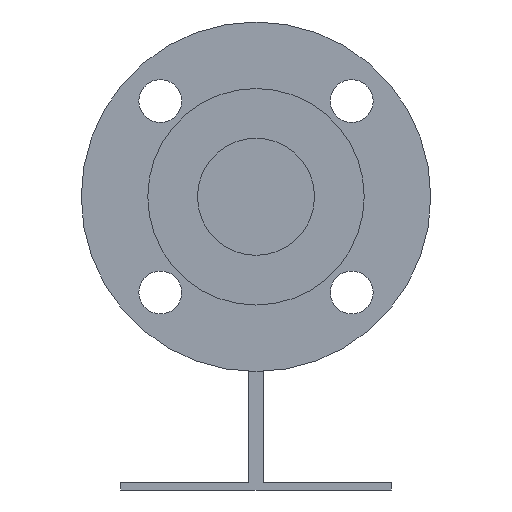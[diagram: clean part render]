
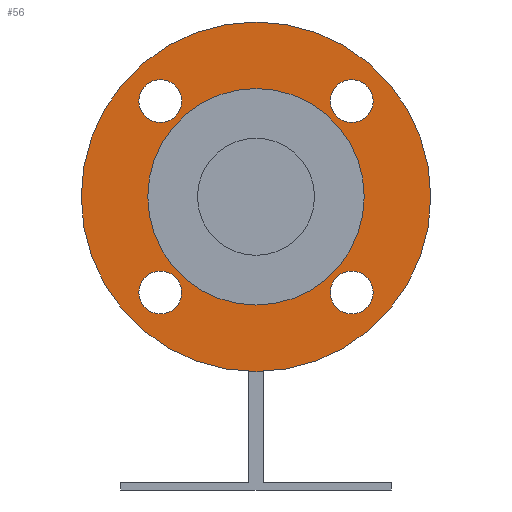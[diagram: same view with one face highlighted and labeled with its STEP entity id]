
A CAD part, left-side view. The second image highlights one B-rep face of the part: STEP entity #56.
In plain terms, the highlighted planar face has unit normal (-1, 0, 0).
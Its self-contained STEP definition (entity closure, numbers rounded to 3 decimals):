
#56=ADVANCED_FACE('',(#285,#286,#287,#288,#289,#290),#284,.T.);
#284=PLANE('',#1012);
#285=FACE_OUTER_BOUND('',#1013,.T.);
#286=FACE_BOUND('',#1014,.T.);
#287=FACE_BOUND('',#1015,.T.);
#288=FACE_BOUND('',#1016,.T.);
#289=FACE_BOUND('',#1017,.T.);
#290=FACE_BOUND('',#1018,.T.);
#1009=CARTESIAN_POINT('',(-339.,-144.234,-165.));
#1010=DIRECTION('',(-1.,0.,0.));
#1011=DIRECTION('',(0.,0.,1.));
#1012=AXIS2_PLACEMENT_3D('',#1009,#1010,#1011);
#1013=EDGE_LOOP('',(#1422,#1423));
#1014=EDGE_LOOP('',(#1424,#1425));
#1015=EDGE_LOOP('',(#1426,#1427));
#1016=EDGE_LOOP('',(#1428,#1429));
#1017=EDGE_LOOP('',(#1430,#1431));
#1018=EDGE_LOOP('',(#1432,#1433));
#1422=ORIENTED_EDGE('',*,*,#1791,.T.);
#1423=ORIENTED_EDGE('',*,*,#1792,.T.);
#1424=ORIENTED_EDGE('',*,*,#1793,.F.);
#1425=ORIENTED_EDGE('',*,*,#1794,.F.);
#1426=ORIENTED_EDGE('',*,*,#1795,.F.);
#1427=ORIENTED_EDGE('',*,*,#1796,.F.);
#1428=ORIENTED_EDGE('',*,*,#1797,.F.);
#1429=ORIENTED_EDGE('',*,*,#1798,.F.);
#1430=ORIENTED_EDGE('',*,*,#1799,.F.);
#1431=ORIENTED_EDGE('',*,*,#1800,.F.);
#1432=ORIENTED_EDGE('',*,*,#1801,.F.);
#1433=ORIENTED_EDGE('',*,*,#1802,.F.);
#1791=EDGE_CURVE('',#2340,#2341,#2342,.T.);
#1792=EDGE_CURVE('',#2341,#2340,#2348,.T.);
#1793=EDGE_CURVE('',#2354,#2355,#2356,.T.);
#1794=EDGE_CURVE('',#2355,#2354,#2362,.T.);
#1795=EDGE_CURVE('',#2368,#2369,#2370,.T.);
#1796=EDGE_CURVE('',#2369,#2368,#2376,.T.);
#1797=EDGE_CURVE('',#2382,#2383,#2384,.T.);
#1798=EDGE_CURVE('',#2383,#2382,#2390,.T.);
#1799=EDGE_CURVE('',#2396,#2397,#2398,.T.);
#1800=EDGE_CURVE('',#2397,#2396,#2404,.T.);
#1801=EDGE_CURVE('',#2410,#2411,#2412,.T.);
#1802=EDGE_CURVE('',#2411,#2410,#2418,.T.);
#2340=VERTEX_POINT('',#3478);
#2341=VERTEX_POINT('',#3479);
#2342=CIRCLE('',#3483,77.5);
#2348=CIRCLE('',#3487,77.5);
#2354=VERTEX_POINT('',#3488);
#2355=VERTEX_POINT('',#3489);
#2356=CIRCLE('',#3493,9.5);
#2362=CIRCLE('',#3497,9.5);
#2368=VERTEX_POINT('',#3498);
#2369=VERTEX_POINT('',#3499);
#2370=CIRCLE('',#3503,9.5);
#2376=CIRCLE('',#3507,9.5);
#2382=VERTEX_POINT('',#3508);
#2383=VERTEX_POINT('',#3509);
#2384=CIRCLE('',#3513,9.5);
#2390=CIRCLE('',#3517,9.5);
#2396=VERTEX_POINT('',#3518);
#2397=VERTEX_POINT('',#3519);
#2398=CIRCLE('',#3523,48.);
#2404=CIRCLE('',#3527,48.);
#2410=VERTEX_POINT('',#3528);
#2411=VERTEX_POINT('',#3529);
#2412=CIRCLE('',#3533,9.5);
#2418=CIRCLE('',#3537,9.5);
#3478=CARTESIAN_POINT('',(-339.,0.,77.5));
#3479=CARTESIAN_POINT('',(-339.,0.,-77.5));
#3480=CARTESIAN_POINT('',(-339.,0.,0.));
#3481=DIRECTION('',(-1.,0.,0.));
#3482=DIRECTION('',(0.,0.,1.));
#3483=AXIS2_PLACEMENT_3D('',#3480,#3481,#3482);
#3484=CARTESIAN_POINT('',(-339.,0.,0.));
#3485=DIRECTION('',(-1.,0.,0.));
#3486=DIRECTION('',(0.,0.,1.));
#3487=AXIS2_PLACEMENT_3D('',#3484,#3485,#3486);
#3488=CARTESIAN_POINT('',(-339.,-42.427,51.926));
#3489=CARTESIAN_POINT('',(-339.,-42.427,32.926));
#3490=CARTESIAN_POINT('',(-339.,-42.427,42.426));
#3491=DIRECTION('',(-1.,0.,0.));
#3492=DIRECTION('',(0.,0.,-1.));
#3493=AXIS2_PLACEMENT_3D('',#3490,#3491,#3492);
#3494=CARTESIAN_POINT('',(-339.,-42.427,42.426));
#3495=DIRECTION('',(-1.,0.,0.));
#3496=DIRECTION('',(0.,0.,-1.));
#3497=AXIS2_PLACEMENT_3D('',#3494,#3495,#3496);
#3498=CARTESIAN_POINT('',(-339.,-42.427,-32.926));
#3499=CARTESIAN_POINT('',(-339.,-42.427,-51.926));
#3500=CARTESIAN_POINT('',(-339.,-42.427,-42.426));
#3501=DIRECTION('',(-1.,0.,0.));
#3502=DIRECTION('',(0.,0.,-1.));
#3503=AXIS2_PLACEMENT_3D('',#3500,#3501,#3502);
#3504=CARTESIAN_POINT('',(-339.,-42.427,-42.426));
#3505=DIRECTION('',(-1.,0.,0.));
#3506=DIRECTION('',(0.,0.,-1.));
#3507=AXIS2_PLACEMENT_3D('',#3504,#3505,#3506);
#3508=CARTESIAN_POINT('',(-339.,42.426,-32.926));
#3509=CARTESIAN_POINT('',(-339.,42.426,-51.926));
#3510=CARTESIAN_POINT('',(-339.,42.426,-42.426));
#3511=DIRECTION('',(-1.,0.,0.));
#3512=DIRECTION('',(0.,0.,-1.));
#3513=AXIS2_PLACEMENT_3D('',#3510,#3511,#3512);
#3514=CARTESIAN_POINT('',(-339.,42.426,-42.426));
#3515=DIRECTION('',(-1.,0.,0.));
#3516=DIRECTION('',(0.,0.,-1.));
#3517=AXIS2_PLACEMENT_3D('',#3514,#3515,#3516);
#3518=CARTESIAN_POINT('',(-339.,0.,-48.));
#3519=CARTESIAN_POINT('',(-339.,0.,48.));
#3520=CARTESIAN_POINT('',(-339.,0.,0.));
#3521=DIRECTION('',(-1.,0.,0.));
#3522=DIRECTION('',(0.,0.,1.));
#3523=AXIS2_PLACEMENT_3D('',#3520,#3521,#3522);
#3524=CARTESIAN_POINT('',(-339.,0.,0.));
#3525=DIRECTION('',(-1.,0.,0.));
#3526=DIRECTION('',(0.,0.,1.));
#3527=AXIS2_PLACEMENT_3D('',#3524,#3525,#3526);
#3528=CARTESIAN_POINT('',(-339.,42.426,51.926));
#3529=CARTESIAN_POINT('',(-339.,42.426,32.926));
#3530=CARTESIAN_POINT('',(-339.,42.426,42.426));
#3531=DIRECTION('',(-1.,0.,0.));
#3532=DIRECTION('',(0.,0.,-1.));
#3533=AXIS2_PLACEMENT_3D('',#3530,#3531,#3532);
#3534=CARTESIAN_POINT('',(-339.,42.426,42.426));
#3535=DIRECTION('',(-1.,0.,0.));
#3536=DIRECTION('',(0.,0.,-1.));
#3537=AXIS2_PLACEMENT_3D('',#3534,#3535,#3536);
